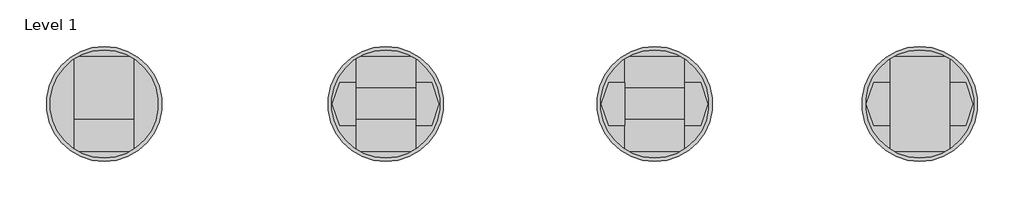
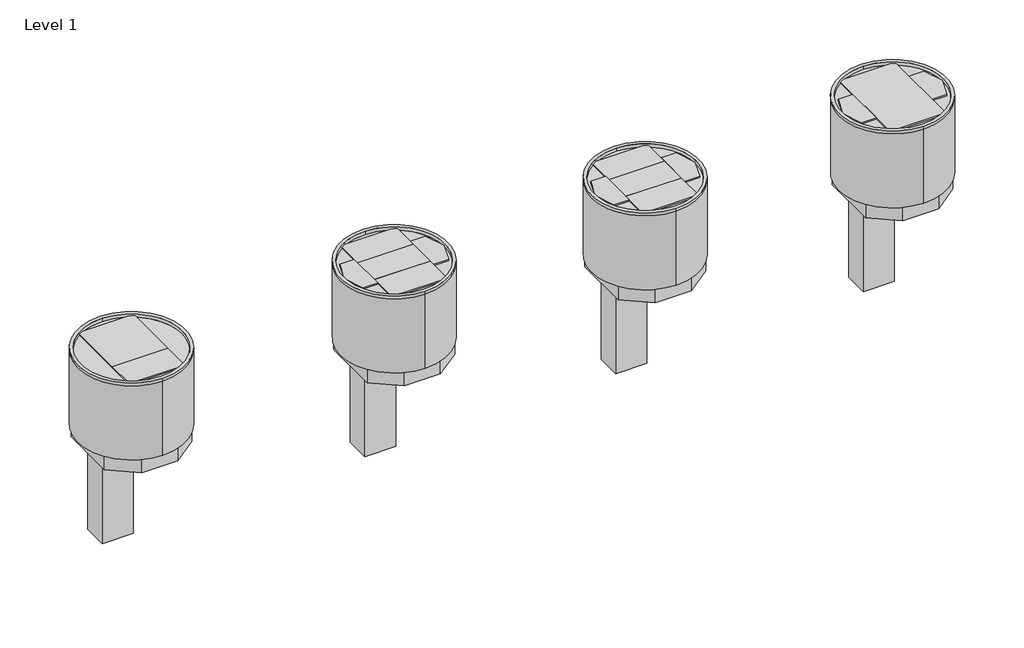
# One storey: 19 proxies.
"""IFC4 building model written with IfcOpenShell, lengths in millimetres."""

from ifc_helpers import new_model, si_unit, origin, place, context, project, spatial, transform, mapped, element, save
from components import center_mount_6_port_comm_3d870548, side_mount_2_port_comm_beeeb3a7, electrical_fixtures_66dcdde5, center_mount_triple_gang_763fbe48, surface_black_841d07af

model = new_model("IFC4")

# Units and contexts
model_context = context("Model", 3, world=origin())
ifc_project = project(units=[si_unit("LENGTHUNIT", "METRE", prefix="MILLI")], contexts=[model_context])

# Site, building, storey
site = spatial("IfcSite", under=ifc_project)
building = spatial("IfcBuilding", under=site)
storey = spatial("IfcBuildingStorey", under=building, Name="Level 1", Elevation=0.0)

# Proxies
placement = place(None, origin())
center_mount_6_port_comm_shape = center_mount_6_port_comm_3d870548(model_context)
element("IfcBuildingElementProxy", 1, Name="Device_Plate-Evolution_Poke_Thru_8AT_Series-Wiremold : Center Mount-MAAP", ObjectType="Device_Plate-Evolution_Poke_Thru_8AT_Series-Wiremold : Center Mount-MAAP", at=placement, inside=storey, context=model_context, shape_type="MappedRepresentation", body=[
    mapped(center_mount_6_port_comm_shape, transform((2544.9801459, 1370.5739193, -6.35), x_axis=(0.0, -1.0, 0.0), y_axis=(1.0, 0.0, 0.0), z_axis=(0.0, 0.0, 1.0))),
])
side_mount_2_port_comm_shape = side_mount_2_port_comm_beeeb3a7(model_context)
element("IfcBuildingElementProxy", 2, Name="Device_Plate-Evolution_Poke_Thru_8AT_Series-Wiremold : Side Mount-MAAP", ObjectType="Device_Plate-Evolution_Poke_Thru_8AT_Series-Wiremold : Side Mount-MAAP", at=placement, inside=storey, context=model_context, shape_type="MappedRepresentation", body=[
    mapped(side_mount_2_port_comm_shape, transform((2617.7215118, 1370.5739193, -6.35), x_axis=(0.0, -1.0, 0.0), y_axis=(1.0, 0.0, 0.0), z_axis=(0.0, 0.0, 1.0))),
])
element("IfcBuildingElementProxy", 3, Name="Device_Plate-Evolution_Poke_Thru_8AT_Series-Wiremold : Side Mount-MAAP", ObjectType="Device_Plate-Evolution_Poke_Thru_8AT_Series-Wiremold : Side Mount-MAAP", at=placement, inside=storey, context=model_context, shape_type="MappedRepresentation", body=[
    mapped(side_mount_2_port_comm_shape, transform((2945.7039725, 1370.5739193, -6.35), x_axis=(0.0, 1.0, 0.0), y_axis=(-1.0, 0.0, 0.0), z_axis=(0.0, 0.0, 1.0))),
])
element("IfcBuildingElementProxy", 4, Name="Device_Plate-Evolution_Poke_Thru_8AT_Series-Wiremold : Side Mount-MAAP", ObjectType="Device_Plate-Evolution_Poke_Thru_8AT_Series-Wiremold : Side Mount-MAAP", at=placement, inside=storey, context=model_context, shape_type="MappedRepresentation", body=[
    mapped(side_mount_2_port_comm_shape, transform((3558.4797036, 1370.5739193, -6.35), x_axis=(0.0, -1.0, 0.0), y_axis=(1.0, 0.0, 0.0), z_axis=(0.0, 0.0, 1.0))),
])
electrical_fixtures_shape = electrical_fixtures_66dcdde5(model_context)
element("IfcBuildingElementProxy", 5, Name="Device_Plate-Evolution_Poke_Thru_8AT_Series-Wiremold : Center Mount-Crestron", ObjectType="Device_Plate-Evolution_Poke_Thru_8AT_Series-Wiremold : Center Mount-Crestron", at=placement, inside=storey, context=model_context, shape_type="MappedRepresentation", body=[
    mapped(electrical_fixtures_shape, transform((2048.9799613, 1398.2599193, -6.35), x_axis=(0.0, 1.0, 0.0), y_axis=(-1.0, 0.0, 0.0), z_axis=(0.0, 0.0, 1.0))),
])
element("IfcBuildingElementProxy", 6, Name="Device_Plate-Evolution_Poke_Thru_8AT_Series-Wiremold : Center Mount-6 Port Comm", ObjectType="Device_Plate-Evolution_Poke_Thru_8AT_Series-Wiremold : Center Mount-6 Port Comm", at=placement, inside=storey, context=model_context, shape_type="MappedRepresentation", body=[
    mapped(center_mount_6_port_comm_shape, transform((2048.9799613, 1315.0114193, -6.35), x_axis=(0.0, -1.0, 0.0), y_axis=(1.0, 0.0, 0.0), z_axis=(0.0, 0.0, 1.0))),
])
element("IfcBuildingElementProxy", 7, Name="Device_Plate-Evolution_Poke_Thru_8AT_Series-Wiremold : Center Mount-Blank", ObjectType="Device_Plate-Evolution_Poke_Thru_8AT_Series-Wiremold : Center Mount-Blank", at=placement, inside=storey, context=model_context, shape_type="MappedRepresentation", body=[
    mapped(center_mount_6_port_comm_shape, transform((3018.7289725, 1315.0114193, -6.35), x_axis=(0.0, -1.0, 0.0), y_axis=(1.0, 0.0, 0.0), z_axis=(0.0, 0.0, 1.0))),
])
element("IfcBuildingElementProxy", 8, Name="Device_Plate-Evolution_Poke_Thru_8AT_Series-Wiremold : Center Mount-Duplex", ObjectType="Device_Plate-Evolution_Poke_Thru_8AT_Series-Wiremold : Center Mount-Duplex", at=placement, inside=storey, context=model_context, shape_type="MappedRepresentation", body=[
    mapped(center_mount_6_port_comm_shape, transform((2544.9801459, 1315.0114193, -6.35), x_axis=(0.0, -1.0, 0.0), y_axis=(1.0, 0.0, 0.0), z_axis=(0.0, 0.0, 1.0))),
])
element("IfcBuildingElementProxy", 9, Name="Device_Plate-Evolution_Poke_Thru_8AT_Series-Wiremold : Center Mount-ORT Series II", ObjectType="Device_Plate-Evolution_Poke_Thru_8AT_Series-Wiremold : Center Mount-ORT Series II", at=placement, inside=storey, context=model_context, shape_type="MappedRepresentation", body=[
    mapped(center_mount_6_port_comm_shape, transform((2544.9801459, 1426.1364193, -6.35), x_axis=(0.0, -1.0, 0.0), y_axis=(1.0, 0.0, 0.0), z_axis=(0.0, 0.0, 1.0))),
])
element("IfcBuildingElementProxy", 10, Name="Device_Plate-Evolution_Poke_Thru_8AT_Series-Wiremold : Center Mount-S1", ObjectType="Device_Plate-Evolution_Poke_Thru_8AT_Series-Wiremold : Center Mount-S1", at=placement, inside=storey, context=model_context, shape_type="MappedRepresentation", body=[
    mapped(center_mount_6_port_comm_shape, transform((3018.7289725, 1370.5739193, -6.35), x_axis=(0.0, -1.0, 0.0), y_axis=(1.0, 0.0, 0.0), z_axis=(0.0, 0.0, 1.0))),
])
element("IfcBuildingElementProxy", 11, Name="Device_Plate-Evolution_Poke_Thru_8AT_Series-Wiremold : Center Mount-S2", ObjectType="Device_Plate-Evolution_Poke_Thru_8AT_Series-Wiremold : Center Mount-S2", at=placement, inside=storey, context=model_context, shape_type="MappedRepresentation", body=[
    mapped(center_mount_6_port_comm_shape, transform((3018.7289725, 1426.1364193, -6.35), x_axis=(0.0, -1.0, 0.0), y_axis=(1.0, 0.0, 0.0), z_axis=(0.0, 0.0, 1.0))),
])
center_mount_triple_gang_shape = center_mount_triple_gang_763fbe48(model_context)
element("IfcBuildingElementProxy", 12, Name="Device_Plate-Evolution_Poke_Thru_8AT_Series-Wiremold : Center Mount-Triple Gang", ObjectType="Device_Plate-Evolution_Poke_Thru_8AT_Series-Wiremold : Center Mount-Triple Gang", at=placement, inside=storey, context=model_context, shape_type="MappedRepresentation", body=[
    mapped(center_mount_triple_gang_shape, transform((3485.7383376, 1370.5739193, -6.35), x_axis=(0.0, -1.0, 0.0), y_axis=(1.0, 0.0, 0.0), z_axis=(0.0, 0.0, 1.0))),
])
element("IfcBuildingElementProxy", 13, Name="Device_Plate-Evolution_Poke_Thru_8AT_Series-Wiremold : Side Mount-2 Port Comm", ObjectType="Device_Plate-Evolution_Poke_Thru_8AT_Series-Wiremold : Side Mount-2 Port Comm", at=placement, inside=storey, context=model_context, shape_type="MappedRepresentation", body=[
    mapped(side_mount_2_port_comm_shape, transform((2471.9551459, 1370.5739193, -6.35), x_axis=(0.0, 1.0, 0.0), y_axis=(-1.0, 0.0, 0.0), z_axis=(0.0, 0.0, 1.0))),
])
element("IfcBuildingElementProxy", 14, Name="Device_Plate-Evolution_Poke_Thru_8AT_Series-Wiremold : Side Mount-Duplex 25", ObjectType="Device_Plate-Evolution_Poke_Thru_8AT_Series-Wiremold : Side Mount-Duplex 25", at=placement, inside=storey, context=model_context, shape_type="MappedRepresentation", body=[
    mapped(side_mount_2_port_comm_shape, transform((3091.7539725, 1370.5739193, -6.35), x_axis=(0.0, -1.0, 0.0), y_axis=(1.0, 0.0, 0.0), z_axis=(0.0, 0.0, 1.0))),
])
element("IfcBuildingElementProxy", 15, Name="Device_Plate-Evolution_Poke_Thru_8AT_Series-Wiremold : Side Mount-Pass Through", ObjectType="Device_Plate-Evolution_Poke_Thru_8AT_Series-Wiremold : Side Mount-Pass Through", at=placement, inside=storey, context=model_context, shape_type="MappedRepresentation", body=[
    mapped(side_mount_2_port_comm_shape, transform((3412.7133376, 1370.5739193, -6.35), x_axis=(0.0, 1.0, 0.0), y_axis=(-1.0, 0.0, 0.0), z_axis=(0.0, 0.0, 1.0))),
])
surface_black_shape = surface_black_841d07af(model_context)
element("IfcBuildingElementProxy", 16, Name="Poke_Thru_Device-Evolution_8AT_Series-Wiremold-Assembly : Surface-Black", ObjectType="Poke_Thru_Device-Evolution_8AT_Series-Wiremold-Assembly : Surface-Black", at=placement, inside=storey, context=model_context, shape_type="MappedRepresentation", body=[
    mapped(surface_black_shape, transform((2048.9799613, 1370.5739193, 0.0), x_axis=(0.0, 1.0, 0.0), y_axis=(-1.0, 0.0, 0.0), z_axis=(0.0, 0.0, 1.0))),
])
element("IfcBuildingElementProxy", 17, Name="Poke_Thru_Device-Evolution_8AT_Series-Wiremold-Assembly : Surface-Black", ObjectType="Poke_Thru_Device-Evolution_8AT_Series-Wiremold-Assembly : Surface-Black", at=placement, inside=storey, context=model_context, shape_type="MappedRepresentation", body=[
    mapped(surface_black_shape, transform((2544.9801459, 1370.5739193, 0.0), x_axis=(0.0, 1.0, 0.0), y_axis=(-1.0, 0.0, 0.0), z_axis=(0.0, 0.0, 1.0))),
])
element("IfcBuildingElementProxy", 18, Name="Poke_Thru_Device-Evolution_8AT_Series-Wiremold-Assembly : Surface-Black", ObjectType="Poke_Thru_Device-Evolution_8AT_Series-Wiremold-Assembly : Surface-Black", at=placement, inside=storey, context=model_context, shape_type="MappedRepresentation", body=[
    mapped(surface_black_shape, transform((3018.7289725, 1370.5739193, 0.0), x_axis=(0.0, 1.0, 0.0), y_axis=(-1.0, 0.0, 0.0), z_axis=(0.0, 0.0, 1.0))),
])
element("IfcBuildingElementProxy", 19, Name="Poke_Thru_Device-Evolution_8AT_Series-Wiremold-Assembly : Surface-Black", ObjectType="Poke_Thru_Device-Evolution_8AT_Series-Wiremold-Assembly : Surface-Black", at=placement, inside=storey, context=model_context, shape_type="MappedRepresentation", body=[
    mapped(surface_black_shape, transform((3485.7383376, 1370.5739193, 0.0), x_axis=(0.0, 1.0, 0.0), y_axis=(-1.0, 0.0, 0.0), z_axis=(0.0, 0.0, 1.0))),
])

save(model, "model.ifc")
